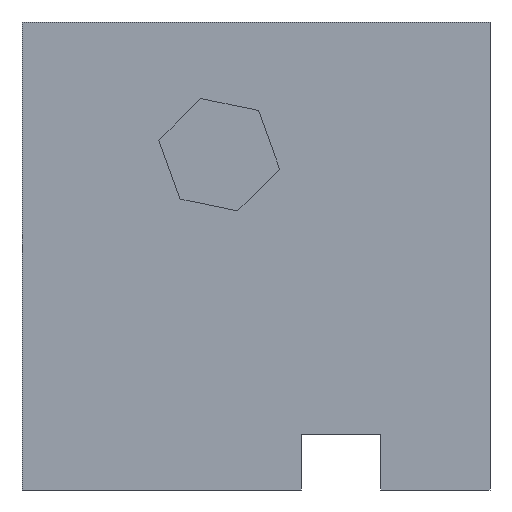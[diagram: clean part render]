
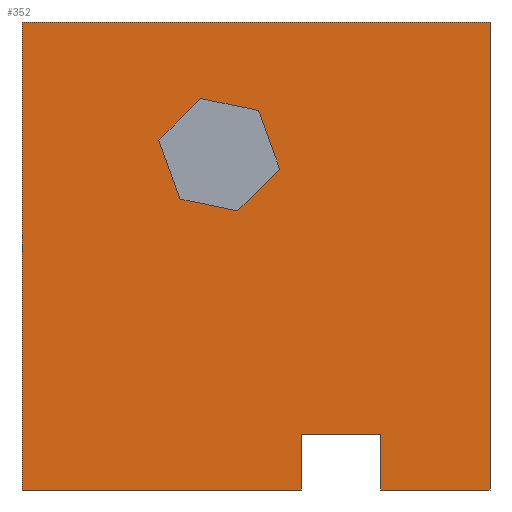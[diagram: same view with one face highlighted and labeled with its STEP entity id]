
A CAD part, left-side view. The second image highlights one B-rep face of the part: STEP entity #352.
In plain terms, the highlighted planar face has unit normal (-1, 0, 0).
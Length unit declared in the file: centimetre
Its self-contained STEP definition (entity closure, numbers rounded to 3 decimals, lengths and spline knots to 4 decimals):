
#1 = VECTOR ( 'NONE', #86, 100. ) ;
#15 = CARTESIAN_POINT ( 'NONE',  ( 0., 494.5068, 811.0096 ) ) ;
#21 = ORIENTED_EDGE ( 'NONE', *, *, #49, .T. ) ;
#33 = CARTESIAN_POINT ( 'NONE',  ( 0., 0., 1000. ) ) ;
#46 = CARTESIAN_POINT ( 'NONE',  ( 0., 1000., 0. ) ) ;
#49 = EDGE_CURVE ( 'NONE', #507, #747, #802, .T. ) ;
#51 = CARTESIAN_POINT ( 'NONE',  ( 0., 707.7192, 747.2109 ) ) ;
#56 = DIRECTION ( 'NONE',  ( 0., 0.707, -0.707 ) ) ;
#65 = CARTESIAN_POINT ( 'NONE',  ( 0., 233.0653, 119.3376 ) ) ;
#74 = DIRECTION ( 'NONE',  ( 0., -1., 0. ) ) ;
#86 = DIRECTION ( 'NONE',  ( 0., -0.979, -0.202 ) ) ;
#87 = ORIENTED_EDGE ( 'NONE', *, *, #704, .T. ) ;
#102 = VERTEX_POINT ( 'NONE', #735 ) ;
#108 = CARTESIAN_POINT ( 'NONE',  ( 0., 402.8125, 0. ) ) ;
#114 = LINE ( 'NONE', #725, #711 ) ;
#116 = CARTESIAN_POINT ( 'NONE',  ( 0., 1000., 0. ) ) ;
#119 = CARTESIAN_POINT ( 'NONE',  ( 0., 618.4187, 836.5114 ) ) ;
#125 = EDGE_CURVE ( 'NONE', #747, #342, #293, .T. ) ;
#127 = VERTEX_POINT ( 'NONE', #734 ) ;
#134 = CARTESIAN_POINT ( 'NONE',  ( 0., 402.8125, 0. ) ) ;
#139 = ORIENTED_EDGE ( 'NONE', *, *, #716, .F. ) ;
#159 = CARTESIAN_POINT ( 'NONE',  ( 0., 449.3766, 685.6885 ) ) ;
#161 = DIRECTION ( 'NONE',  ( 0., -1., 0. ) ) ;
#167 = VECTOR ( 'NONE', #603, 100. ) ;
#171 = EDGE_CURVE ( 'NONE', #726, #230, #472, .T. ) ;
#172 = DIRECTION ( 'NONE',  ( 0., -1., 0. ) ) ;
#179 = VECTOR ( 'NONE', #346, 100. ) ;
#189 = ORIENTED_EDGE ( 'NONE', *, *, #171, .F. ) ;
#202 = LINE ( 'NONE', #592, #1 ) ;
#204 = EDGE_CURVE ( 'NONE', #347, #699, #290, .T. ) ;
#205 = VECTOR ( 'NONE', #269, 100. ) ;
#225 = LINE ( 'NONE', #108, #411 ) ;
#227 = ORIENTED_EDGE ( 'NONE', *, *, #345, .T. ) ;
#230 = VERTEX_POINT ( 'NONE', #285 ) ;
#243 = EDGE_CURVE ( 'NONE', #666, #127, #559, .T. ) ;
#258 = ORIENTED_EDGE ( 'NONE', *, *, #374, .F. ) ;
#260 = VERTEX_POINT ( 'NONE', #65 ) ;
#262 = CARTESIAN_POINT ( 'NONE',  ( 0., 1000., 1000. ) ) ;
#269 = DIRECTION ( 'NONE',  ( 0., 0.979, 0.202 ) ) ;
#270 = EDGE_CURVE ( 'NONE', #693, #699, #316, .T. ) ;
#277 = CARTESIAN_POINT ( 'NONE',  ( 0., 0., 1000. ) ) ;
#285 = CARTESIAN_POINT ( 'NONE',  ( 0., 449.3766, 685.6885 ) ) ;
#290 = LINE ( 'NONE', #33, #710 ) ;
#293 = LINE ( 'NONE', #476, #687 ) ;
#296 = VECTOR ( 'NONE', #568, 100. ) ;
#304 = CARTESIAN_POINT ( 'NONE',  ( 0., 662.5891, 621.8897 ) ) ;
#313 = ORIENTED_EDGE ( 'NONE', *, *, #601, .T. ) ;
#316 = LINE ( 'NONE', #116, #296 ) ;
#319 = VERTEX_POINT ( 'NONE', #365 ) ;
#342 = VERTEX_POINT ( 'NONE', #134 ) ;
#345 = EDGE_CURVE ( 'NONE', #260, #693, #641, .T. ) ;
#346 = DIRECTION ( 'NONE',  ( 0., 0., -1. ) ) ;
#347 = VERTEX_POINT ( 'NONE', #277 ) ;
#352 = ADVANCED_FACE ( 'NONE', ( #705, #709 ), #587, .F. ) ;
#355 = CARTESIAN_POINT ( 'NONE',  ( 0., 538.6772, 596.3879 ) ) ;
#357 = DIRECTION ( 'NONE',  ( 0., 0., 1. ) ) ;
#365 = CARTESIAN_POINT ( 'NONE',  ( 0., 402.8125, 119.3376 ) ) ;
#374 = EDGE_CURVE ( 'NONE', #510, #726, #202, .T. ) ;
#375 = DIRECTION ( 'NONE',  ( 1., 0., 0. ) ) ;
#377 = AXIS2_PLACEMENT_3D ( 'NONE', #262, #375, #380 ) ;
#380 = DIRECTION ( 'NONE',  ( 0., 0., -1. ) ) ;
#389 = LINE ( 'NONE', #15, #205 ) ;
#400 = CARTESIAN_POINT ( 'NONE',  ( 0., 1000., 1000. ) ) ;
#407 = EDGE_CURVE ( 'NONE', #102, #666, #389, .T. ) ;
#411 = VECTOR ( 'NONE', #357, 100. ) ;
#415 = CARTESIAN_POINT ( 'NONE',  ( 0., 0., 0. ) ) ;
#450 = VECTOR ( 'NONE', #488, 100. ) ;
#463 = CARTESIAN_POINT ( 'NONE',  ( 0., 618.4187, 836.5114 ) ) ;
#472 = LINE ( 'NONE', #680, #595 ) ;
#475 = ORIENTED_EDGE ( 'NONE', *, *, #243, .F. ) ;
#476 = CARTESIAN_POINT ( 'NONE',  ( 0., 1000., 0. ) ) ;
#488 = DIRECTION ( 'NONE',  ( 0., 0.339, 0.941 ) ) ;
#497 = ORIENTED_EDGE ( 'NONE', *, *, #500, .F. ) ;
#500 = EDGE_CURVE ( 'NONE', #507, #347, #613, .T. ) ;
#501 = EDGE_LOOP ( 'NONE', ( #313, #227, #801, #655, #497, #21, #609, #87 ) ) ;
#507 = VERTEX_POINT ( 'NONE', #797 ) ;
#510 = VERTEX_POINT ( 'NONE', #304 ) ;
#517 = DIRECTION ( 'NONE',  ( 0., 0., -1. ) ) ;
#525 = CARTESIAN_POINT ( 'NONE',  ( 0., 233.0653, 0. ) ) ;
#548 = CARTESIAN_POINT ( 'NONE',  ( 0., 1000., 1000. ) ) ;
#551 = VECTOR ( 'NONE', #56, 100. ) ;
#559 = LINE ( 'NONE', #119, #551 ) ;
#568 = DIRECTION ( 'NONE',  ( 0., -1., 0. ) ) ;
#570 = ORIENTED_EDGE ( 'NONE', *, *, #407, .F. ) ;
#587 = PLANE ( 'NONE',  #377 ) ;
#592 = CARTESIAN_POINT ( 'NONE',  ( 0., 662.5891, 621.8897 ) ) ;
#595 = VECTOR ( 'NONE', #606, 100. ) ;
#601 = EDGE_CURVE ( 'NONE', #319, #260, #114, .T. ) ;
#603 = DIRECTION ( 'NONE',  ( 0., -0.339, -0.941 ) ) ;
#606 = DIRECTION ( 'NONE',  ( 0., -0.707, 0.707 ) ) ;
#609 = ORIENTED_EDGE ( 'NONE', *, *, #125, .T. ) ;
#613 = LINE ( 'NONE', #548, #765 ) ;
#641 = LINE ( 'NONE', #652, #745 ) ;
#652 = CARTESIAN_POINT ( 'NONE',  ( 0., 233.0653, 0. ) ) ;
#655 = ORIENTED_EDGE ( 'NONE', *, *, #204, .F. ) ;
#665 = ORIENTED_EDGE ( 'NONE', *, *, #778, .F. ) ;
#666 = VERTEX_POINT ( 'NONE', #463 ) ;
#680 = CARTESIAN_POINT ( 'NONE',  ( 0., 538.6772, 596.3879 ) ) ;
#682 = LINE ( 'NONE', #159, #450 ) ;
#687 = VECTOR ( 'NONE', #161, 100. ) ;
#693 = VERTEX_POINT ( 'NONE', #525 ) ;
#699 = VERTEX_POINT ( 'NONE', #415 ) ;
#704 = EDGE_CURVE ( 'NONE', #342, #319, #225, .T. ) ;
#705 = FACE_BOUND ( 'NONE', #753, .T. ) ;
#709 = FACE_OUTER_BOUND ( 'NONE', #501, .T. ) ;
#710 = VECTOR ( 'NONE', #788, 100. ) ;
#711 = VECTOR ( 'NONE', #74, 100. ) ;
#716 = EDGE_CURVE ( 'NONE', #127, #510, #790, .T. ) ;
#725 = CARTESIAN_POINT ( 'NONE',  ( 0., 233.0653, 119.3376 ) ) ;
#726 = VERTEX_POINT ( 'NONE', #355 ) ;
#734 = CARTESIAN_POINT ( 'NONE',  ( 0., 707.7192, 747.2109 ) ) ;
#735 = CARTESIAN_POINT ( 'NONE',  ( 0., 494.5068, 811.0096 ) ) ;
#745 = VECTOR ( 'NONE', #517, 100. ) ;
#747 = VERTEX_POINT ( 'NONE', #46 ) ;
#753 = EDGE_LOOP ( 'NONE', ( #475, #570, #665, #189, #258, #139 ) ) ;
#765 = VECTOR ( 'NONE', #172, 100. ) ;
#778 = EDGE_CURVE ( 'NONE', #230, #102, #682, .T. ) ;
#788 = DIRECTION ( 'NONE',  ( 0., 0., -1. ) ) ;
#790 = LINE ( 'NONE', #51, #167 ) ;
#797 = CARTESIAN_POINT ( 'NONE',  ( 0., 1000., 1000. ) ) ;
#801 = ORIENTED_EDGE ( 'NONE', *, *, #270, .T. ) ;
#802 = LINE ( 'NONE', #400, #179 ) ;
